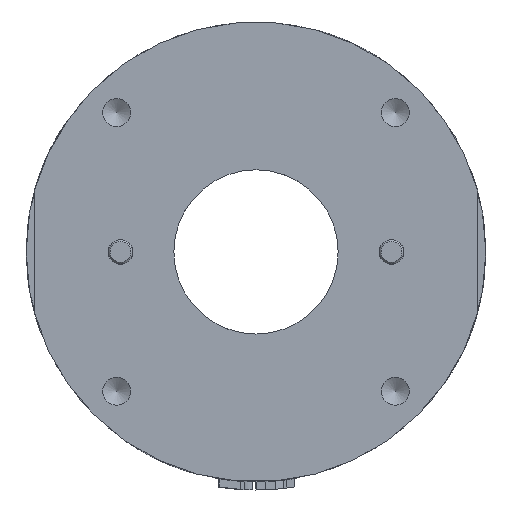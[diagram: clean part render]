
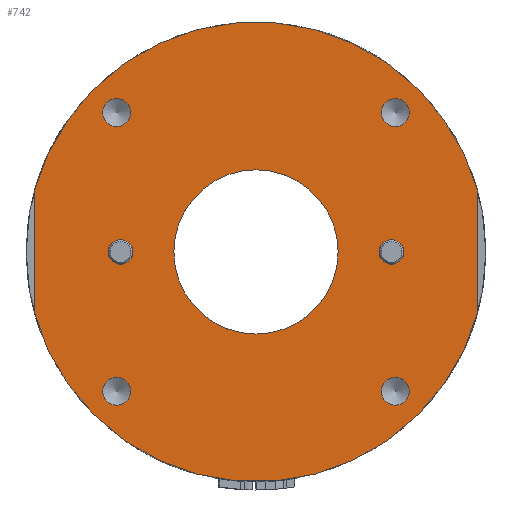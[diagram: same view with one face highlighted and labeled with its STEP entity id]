
A CAD part, left-side view. The second image highlights one B-rep face of the part: STEP entity #742.
In plain terms, the highlighted planar face has unit normal (-1, 0, 0).
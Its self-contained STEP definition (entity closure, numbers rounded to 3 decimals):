
#480=PLANE('',#6691);
#742=ADVANCED_FACE('',(#1759,#1760,#1761,#1762,#1763,#1764,#1765,#1766),
#480,.T.);
#1169=CIRCLE('',#6550,1.5);
#1170=CIRCLE('',#6553,1.5);
#1226=CIRCLE('',#6662,28.);
#1230=CIRCLE('',#6670,28.);
#1231=CIRCLE('',#6672,1.7);
#1232=CIRCLE('',#6674,1.7);
#1233=CIRCLE('',#6676,1.7);
#1234=CIRCLE('',#6678,1.7);
#1236=CIRCLE('',#6690,10.);
#1325=LINE('',#12110,#1461);
#1329=LINE('',#12122,#1465);
#1461=VECTOR('',#7501,1.);
#1465=VECTOR('',#7513,1.);
#1759=FACE_BOUND('',#1998,.T.);
#1760=FACE_BOUND('',#1999,.T.);
#1761=FACE_BOUND('',#2000,.T.);
#1762=FACE_BOUND('',#2001,.T.);
#1763=FACE_BOUND('',#2002,.T.);
#1764=FACE_BOUND('',#2003,.T.);
#1765=FACE_BOUND('',#2004,.T.);
#1766=FACE_BOUND('',#2005,.T.);
#1998=EDGE_LOOP('',(#2889));
#1999=EDGE_LOOP('',(#2890));
#2000=EDGE_LOOP('',(#2891));
#2001=EDGE_LOOP('',(#2892));
#2002=EDGE_LOOP('',(#2893));
#2003=EDGE_LOOP('',(#2894));
#2004=EDGE_LOOP('',(#2895));
#2005=EDGE_LOOP('',(#2896,#2897,#2898,#2899));
#2889=ORIENTED_EDGE('',*,*,#5255,.T.);
#2890=ORIENTED_EDGE('',*,*,#5254,.T.);
#2891=ORIENTED_EDGE('',*,*,#5253,.T.);
#2892=ORIENTED_EDGE('',*,*,#5252,.T.);
#2893=ORIENTED_EDGE('',*,*,#5160,.T.);
#2894=ORIENTED_EDGE('',*,*,#5163,.T.);
#2895=ORIENTED_EDGE('',*,*,#5264,.T.);
#2896=ORIENTED_EDGE('',*,*,#5251,.F.);
#2897=ORIENTED_EDGE('',*,*,#5248,.T.);
#2898=ORIENTED_EDGE('',*,*,#5243,.F.);
#2899=ORIENTED_EDGE('',*,*,#5242,.T.);
#4514=VERTEX_POINT('',#11645);
#4517=VERTEX_POINT('',#11661);
#4597=VERTEX_POINT('',#12105);
#4599=VERTEX_POINT('',#12109);
#4600=VERTEX_POINT('',#12113);
#4603=VERTEX_POINT('',#12120);
#4605=VERTEX_POINT('',#12132);
#4606=VERTEX_POINT('',#12135);
#4607=VERTEX_POINT('',#12138);
#4608=VERTEX_POINT('',#12141);
#4616=VERTEX_POINT('',#12393);
#5160=EDGE_CURVE('',#4514,#4514,#1169,.T.);
#5163=EDGE_CURVE('',#4517,#4517,#1170,.T.);
#5242=EDGE_CURVE('',#4597,#4599,#1325,.T.);
#5243=EDGE_CURVE('',#4597,#4600,#1226,.T.);
#5248=EDGE_CURVE('',#4603,#4600,#1329,.T.);
#5251=EDGE_CURVE('',#4603,#4599,#1230,.T.);
#5252=EDGE_CURVE('',#4605,#4605,#1231,.T.);
#5253=EDGE_CURVE('',#4606,#4606,#1232,.T.);
#5254=EDGE_CURVE('',#4607,#4607,#1233,.T.);
#5255=EDGE_CURVE('',#4608,#4608,#1234,.T.);
#5264=EDGE_CURVE('',#4616,#4616,#1236,.T.);
#6550=AXIS2_PLACEMENT_3D('',#11644,#7262,#7263);
#6553=AXIS2_PLACEMENT_3D('',#11660,#7268,#7269);
#6662=AXIS2_PLACEMENT_3D('',#12112,#7504,#7505);
#6670=AXIS2_PLACEMENT_3D('',#12129,#7524,#7525);
#6672=AXIS2_PLACEMENT_3D('',#12131,#7528,#7529);
#6674=AXIS2_PLACEMENT_3D('',#12134,#7532,#7533);
#6676=AXIS2_PLACEMENT_3D('',#12137,#7536,#7537);
#6678=AXIS2_PLACEMENT_3D('',#12140,#7540,#7541);
#6690=AXIS2_PLACEMENT_3D('',#12392,#7564,#7565);
#6691=AXIS2_PLACEMENT_3D('',#12394,#7566,#7567);
#7262=DIRECTION('',(1.,0.,0.));
#7263=DIRECTION('',(0.,0.,-1.));
#7268=DIRECTION('',(1.,0.,0.));
#7269=DIRECTION('',(0.,0.,-1.));
#7501=DIRECTION('',(0.,0.,-1.));
#7504=DIRECTION('',(1.,0.,0.));
#7505=DIRECTION('',(0.,0.,-1.));
#7513=DIRECTION('',(0.,0.,1.));
#7524=DIRECTION('',(1.,0.,0.));
#7525=DIRECTION('',(0.,0.,-1.));
#7528=DIRECTION('',(1.,0.,0.));
#7529=DIRECTION('',(0.,0.707,-0.707));
#7532=DIRECTION('',(1.,0.,0.));
#7533=DIRECTION('',(0.,0.707,0.707));
#7536=DIRECTION('',(1.,0.,0.));
#7537=DIRECTION('',(0.,-0.707,0.707));
#7540=DIRECTION('',(1.,0.,0.));
#7541=DIRECTION('',(0.,-0.707,-0.707));
#7564=DIRECTION('',(1.,0.,0.));
#7565=DIRECTION('',(0.,0.,-1.));
#7566=DIRECTION('',(-1.,0.,0.));
#7567=DIRECTION('',(0.,0.,1.));
#11644=CARTESIAN_POINT('',(0.,16.5,0.));
#11645=CARTESIAN_POINT('',(0.,16.5,-1.5));
#11660=CARTESIAN_POINT('',(0.,-16.5,0.));
#11661=CARTESIAN_POINT('',(0.,-16.5,-1.5));
#12105=CARTESIAN_POINT('',(0.,27.,7.416));
#12109=CARTESIAN_POINT('',(0.,27.,-7.416));
#12110=CARTESIAN_POINT('',(0.,27.,0.));
#12112=CARTESIAN_POINT('',(0.,0.,0.));
#12113=CARTESIAN_POINT('',(0.,-27.,7.416));
#12120=CARTESIAN_POINT('',(0.,-27.,-7.416));
#12122=CARTESIAN_POINT('',(0.,-27.,0.));
#12129=CARTESIAN_POINT('',(0.,0.,0.));
#12131=CARTESIAN_POINT('',(0.,16.971,16.971));
#12132=CARTESIAN_POINT('',(0.,18.173,15.768));
#12134=CARTESIAN_POINT('',(0.,-16.971,16.971));
#12135=CARTESIAN_POINT('',(0.,-15.768,18.173));
#12137=CARTESIAN_POINT('',(0.,-16.971,-16.971));
#12138=CARTESIAN_POINT('',(0.,-18.173,-15.768));
#12140=CARTESIAN_POINT('',(0.,16.971,-16.971));
#12141=CARTESIAN_POINT('',(0.,15.768,-18.173));
#12392=CARTESIAN_POINT('',(0.,0.,0.));
#12393=CARTESIAN_POINT('',(0.,0.,-10.));
#12394=CARTESIAN_POINT('',(0.,0.,0.));
